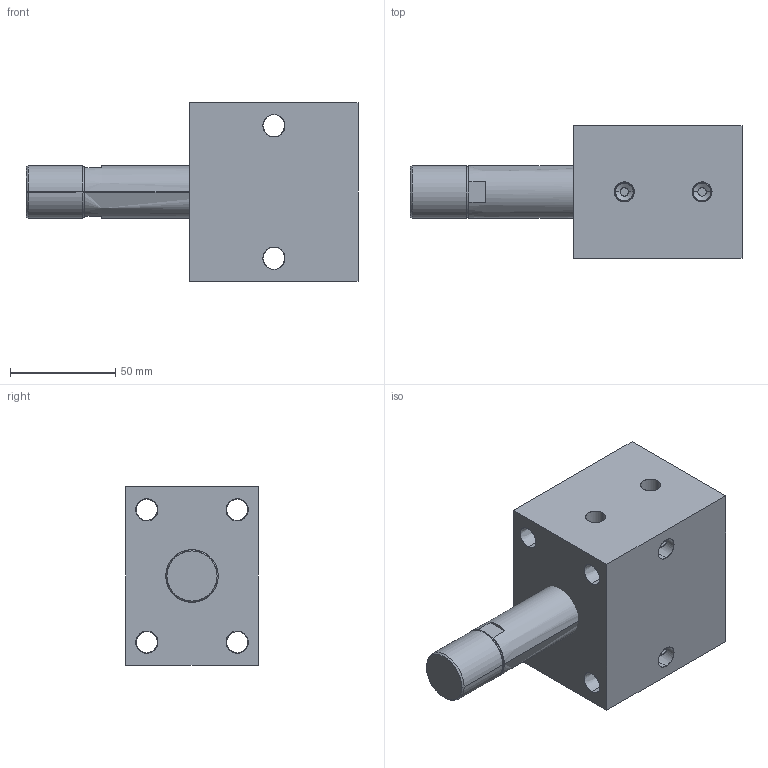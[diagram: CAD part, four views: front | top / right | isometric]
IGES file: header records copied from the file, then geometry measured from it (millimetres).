
Start section: SolidWorks IGES file using analytic representation for surfaces
Global section: file name: C:\Documents and Settings\rajib\Desktop\Rajib\BLOCK CYLINDER HYDRAULIC\0401-0406\IGS 0401-0406\0403.IGS; native system: SolidWorks 2007; preprocessor: SolidWorks 2007; author: rajib; date: 110121.101516; units: millimetre
Bounding box: 158 x 63 x 85 mm (x, y, z)
Surface area: 57063.9 mm2 (no closed solid volume)
Topology: 0 solids, 0 shells, 76 faces, 1704 edges, 1704 vertices
Faces by surface type: revolution 54, bspline 22
